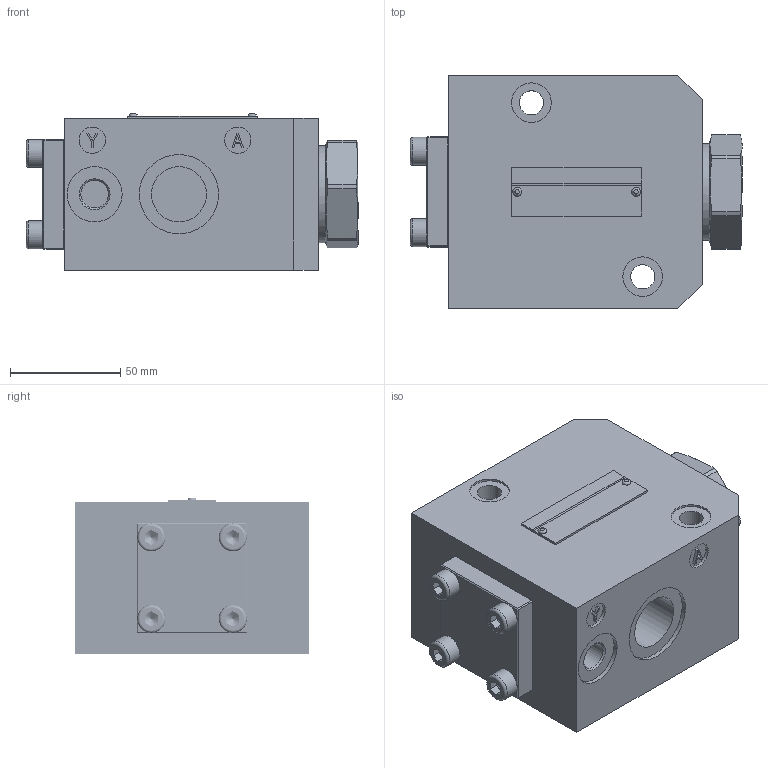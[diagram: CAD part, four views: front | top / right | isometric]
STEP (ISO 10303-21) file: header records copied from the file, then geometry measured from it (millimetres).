
FILE_DESCRIPTION(/* description */ (''),/* implementation_level */ '2;1');
FILE_NAME(/* name */ 'SL20G-1(2)-4XJ液控单向阀（管式）.prt.stp',/* time_stamp */ '2022-03-30T19:18:37+08:00',/* author */ (''),/* organization */ (''),/* preprocessor_version */ 'ST-DEVELOPER v16.7',/* originating_system */ 'SIEMENS PLM Software NX 12.0',/* authorisation */ '');
FILE_SCHEMA (('AUTOMOTIVE_DESIGN { 1 0 10303 214 3 1 1 1 }'));
Products named in the file (1): SL20G-1(2)-4XJ液控单向阀（管式）
Bounding box: 150.74 x 106 x 71 mm (x, y, z)
Volume: 868370.1 mm3; surface area: 98496.9 mm2
Topology: 10 solids, 10 shells, 408 faces, 978 edges, 617 vertices
Faces by surface type: plane 188, cylinder 117, cone 43, bspline 26, extrusion 26, torus 8
Full cylindrical faces by diameter (mm): 1.8 x6, 3.4 x1, 5 x2, 6.7 x52, 9 x4, 11 x2, 12 x4, 12.5 x2, 12.73 x4, 16.6 x1, 18 x2, 25 x4, 29.2 x1, 36 x3, 39.7 x1, 40.5 x1, 44 x2
Entity records: 50920 total; most frequent: CARTESIAN_POINT 42925, ORIENTED_EDGE 1412, DIRECTION 1348, EDGE_CURVE 706, VERTEX_POINT 495, EDGE_LOOP 488, AXIS2_PLACEMENT_3D 487, VECTOR 374
